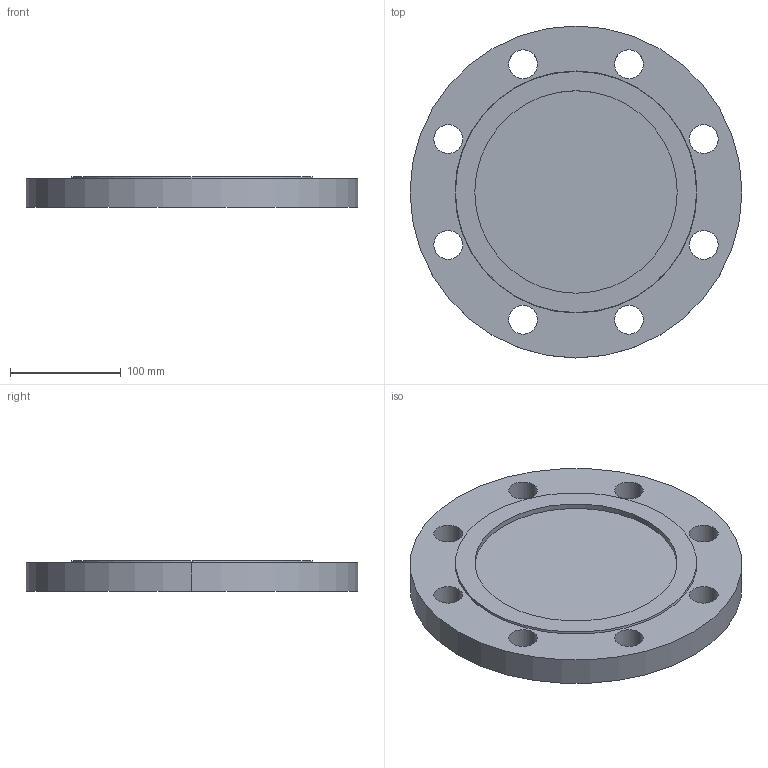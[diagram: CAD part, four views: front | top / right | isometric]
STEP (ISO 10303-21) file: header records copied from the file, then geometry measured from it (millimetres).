
FILE_DESCRIPTION (( 'STEP AP214' ), '1' );
FILE_NAME ('PN40 DN150 Type 05 - Type G Face.STEP', '2019-01-05T00:17:32', ( '' ), ( '' ), 'SwSTEP 2.0', 'SolidWorks 2019', '' );
FILE_SCHEMA (( 'AUTOMOTIVE_DESIGN' ));
Length unit declared in the file: millimetre
Products named in the file (1): PN40 DN150 Type 05 - Type G Face
Bounding box: 300 x 300 x 28 mm (x, y, z)
Volume: 1670779.7 mm3; surface area: 178396.7 mm2
Topology: 1 solids, 1 shells, 26 faces, 66 edges, 44 vertices
Faces by surface type: cylinder 20, plane 4, cone 2
Entity records: 880 total; most frequent: DIRECTION 164, CARTESIAN_POINT 137, ORIENTED_EDGE 132, AXIS2_PLACEMENT_3D 71, EDGE_CURVE 66, CIRCLE 44, VERTEX_POINT 44, EDGE_LOOP 44
